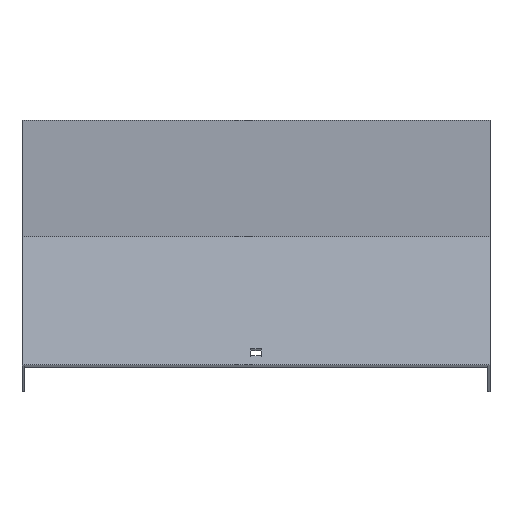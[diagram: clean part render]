
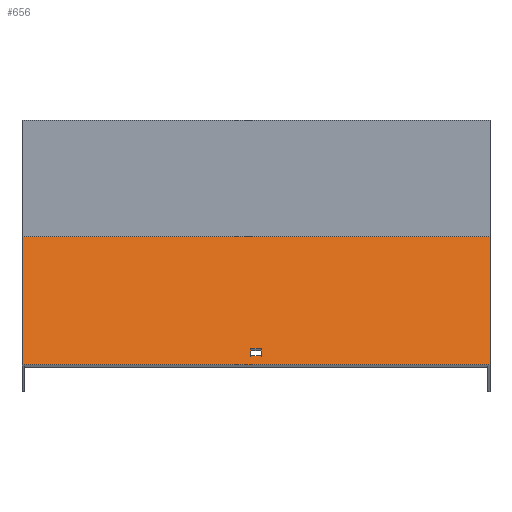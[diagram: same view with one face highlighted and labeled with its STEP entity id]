
A CAD part, top view. The second image highlights one B-rep face of the part: STEP entity #656.
In plain terms, the highlighted planar face has unit normal (0, 0.866, 0.5).
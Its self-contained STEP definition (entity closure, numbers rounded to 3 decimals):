
#3 = CARTESIAN_POINT ( 'NONE',  ( 3.25, -57.219, 452.187 ) ) ;
#7 = LINE ( 'NONE', #3, #454 ) ;
#8 = CARTESIAN_POINT ( 'NONE',  ( -151.5, -55.903, 449.906 ) ) ;
#11 = VERTEX_POINT ( 'NONE', #835 ) ;
#14 = LINE ( 'NONE', #20, #735 ) ;
#20 = CARTESIAN_POINT ( 'NONE',  ( 151.5, -55.903, 449.906 ) ) ;
#24 = LINE ( 'NONE', #290, #325 ) ;
#46 = VECTOR ( 'NONE', #414, 1000. ) ;
#50 = EDGE_CURVE ( 'NONE', #86, #816, #752, .T. ) ;
#62 = CARTESIAN_POINT ( 'NONE',  ( 151.5, -139.219, 594.215 ) ) ;
#68 = VECTOR ( 'NONE', #540, 1000. ) ;
#70 = ORIENTED_EDGE ( 'NONE', *, *, #667, .T. ) ;
#86 = VERTEX_POINT ( 'NONE', #756 ) ;
#91 = ORIENTED_EDGE ( 'NONE', *, *, #269, .F. ) ;
#100 = VECTOR ( 'NONE', #713, 1000. ) ;
#132 = CARTESIAN_POINT ( 'NONE',  ( 151.5, -57.219, 452.187 ) ) ;
#139 = CARTESIAN_POINT ( 'NONE',  ( -151.5, -57.219, 452.187 ) ) ;
#149 = LINE ( 'NONE', #139, #643 ) ;
#197 = DIRECTION ( 'NONE',  ( 0., -0.5, 0.866 ) ) ;
#251 = VERTEX_POINT ( 'NONE', #8 ) ;
#268 = LINE ( 'NONE', #62, #100 ) ;
#269 = EDGE_CURVE ( 'NONE', #743, #11, #268, .T. ) ;
#273 = DIRECTION ( 'NONE',  ( 0., -0.5, 0.866 ) ) ;
#276 = FACE_OUTER_BOUND ( 'NONE', #794, .T. ) ;
#278 = CARTESIAN_POINT ( 'NONE',  ( 151.5, -55.903, 449.906 ) ) ;
#290 = CARTESIAN_POINT ( 'NONE',  ( -3.25, -57.219, 452.187 ) ) ;
#306 = EDGE_CURVE ( 'NONE', #492, #681, #484, .T. ) ;
#325 = VECTOR ( 'NONE', #557, 1000. ) ;
#343 = CARTESIAN_POINT ( 'NONE',  ( 3.25, -128.719, 576.028 ) ) ;
#344 = FACE_BOUND ( 'NONE', #826, .T. ) ;
#347 = CARTESIAN_POINT ( 'NONE',  ( -3.25, -133.219, 583.822 ) ) ;
#357 = ORIENTED_EDGE ( 'NONE', *, *, #584, .T. ) ;
#368 = CARTESIAN_POINT ( 'NONE',  ( 151.5, -139.219, 594.215 ) ) ;
#375 = ORIENTED_EDGE ( 'NONE', *, *, #838, .F. ) ;
#414 = DIRECTION ( 'NONE',  ( 1., 0., 0. ) ) ;
#437 = DIRECTION ( 'NONE',  ( -1., 0., 0. ) ) ;
#440 = DIRECTION ( 'NONE',  ( 0., 0.5, -0.866 ) ) ;
#454 = VECTOR ( 'NONE', #273, 1000. ) ;
#481 = VERTEX_POINT ( 'NONE', #278 ) ;
#484 = LINE ( 'NONE', #745, #46 ) ;
#492 = VERTEX_POINT ( 'NONE', #607 ) ;
#494 = AXIS2_PLACEMENT_3D ( 'NONE', #684, #504, #440 ) ;
#504 = DIRECTION ( 'NONE',  ( 0., -0.866, -0.5 ) ) ;
#540 = DIRECTION ( 'NONE',  ( 0., -0.5, 0.866 ) ) ;
#557 = DIRECTION ( 'NONE',  ( 0., 0.5, -0.866 ) ) ;
#564 = ORIENTED_EDGE ( 'NONE', *, *, #820, .T. ) ;
#569 = PLANE ( 'NONE',  #494 ) ;
#580 = EDGE_CURVE ( 'NONE', #481, #251, #14, .T. ) ;
#584 = EDGE_CURVE ( 'NONE', #251, #11, #149, .T. ) ;
#601 = ORIENTED_EDGE ( 'NONE', *, *, #306, .T. ) ;
#607 = CARTESIAN_POINT ( 'NONE',  ( -3.25, -128.719, 576.028 ) ) ;
#622 = CARTESIAN_POINT ( 'NONE',  ( 151.5, -133.219, 583.822 ) ) ;
#643 = VECTOR ( 'NONE', #197, 1000. ) ;
#656 = ADVANCED_FACE ( 'NONE', ( #344, #276 ), #569, .F. ) ;
#667 = EDGE_CURVE ( 'NONE', #816, #492, #24, .T. ) ;
#681 = VERTEX_POINT ( 'NONE', #343 ) ;
#684 = CARTESIAN_POINT ( 'NONE',  ( 151.5, -57.219, 452.187 ) ) ;
#713 = DIRECTION ( 'NONE',  ( -1., 0., 0. ) ) ;
#735 = VECTOR ( 'NONE', #790, 1000. ) ;
#743 = VERTEX_POINT ( 'NONE', #368 ) ;
#745 = CARTESIAN_POINT ( 'NONE',  ( 151.5, -128.719, 576.028 ) ) ;
#747 = ORIENTED_EDGE ( 'NONE', *, *, #580, .T. ) ;
#752 = LINE ( 'NONE', #622, #785 ) ;
#756 = CARTESIAN_POINT ( 'NONE',  ( 3.25, -133.219, 583.822 ) ) ;
#785 = VECTOR ( 'NONE', #437, 1000. ) ;
#790 = DIRECTION ( 'NONE',  ( -1., 0., 0. ) ) ;
#791 = LINE ( 'NONE', #132, #68 ) ;
#794 = EDGE_LOOP ( 'NONE', ( #357, #91, #375, #747 ) ) ;
#816 = VERTEX_POINT ( 'NONE', #347 ) ;
#820 = EDGE_CURVE ( 'NONE', #681, #86, #7, .T. ) ;
#826 = EDGE_LOOP ( 'NONE', ( #601, #564, #851, #70 ) ) ;
#835 = CARTESIAN_POINT ( 'NONE',  ( -151.5, -139.219, 594.215 ) ) ;
#838 = EDGE_CURVE ( 'NONE', #481, #743, #791, .T. ) ;
#851 = ORIENTED_EDGE ( 'NONE', *, *, #50, .T. ) ;
